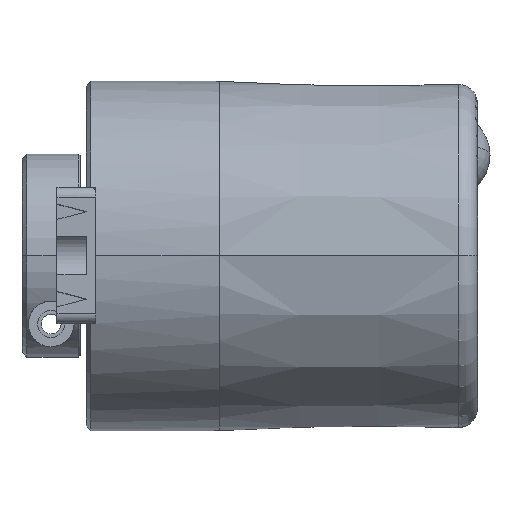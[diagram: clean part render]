
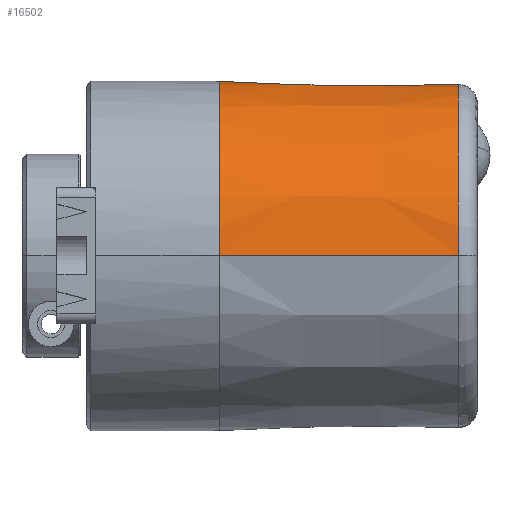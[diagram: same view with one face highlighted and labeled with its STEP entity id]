
A CAD part, top view. The second image highlights one B-rep face of the part: STEP entity #16502.
In plain terms, the highlighted conical face has half-angle 0.75 degrees and reference radius 18 mm.
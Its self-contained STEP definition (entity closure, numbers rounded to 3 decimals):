
#5331 = CARTESIAN_POINT ( 'NONE',  ( 14.892, 1.046, -17.954 ) ) ;
#5333 = CARTESIAN_POINT ( 'NONE',  ( 15.85, 0., -17.972 ) ) ;
#5338 = CARTESIAN_POINT ( 'NONE',  ( 14.892, 1.046, -17.954 ) ) ;
#5339 = CARTESIAN_POINT ( 'NONE',  ( 15.022, 1.035, -17.953 ) ) ;
#5340 = CARTESIAN_POINT ( 'NONE',  ( 15.149, 0.999, -17.953 ) ) ;
#5341 = CARTESIAN_POINT ( 'NONE',  ( 15.381, 0.884, -17.956 ) ) ;
#5342 = CARTESIAN_POINT ( 'NONE',  ( 15.487, 0.804, -17.959 ) ) ;
#5343 = CARTESIAN_POINT ( 'NONE',  ( 15.662, 0.614, -17.964 ) ) ;
#5344 = CARTESIAN_POINT ( 'NONE',  ( 15.732, 0.501, -17.967 ) ) ;
#5345 = CARTESIAN_POINT ( 'NONE',  ( 15.825, 0.26, -17.971 ) ) ;
#5346 = CARTESIAN_POINT ( 'NONE',  ( 15.85, 0.129, -17.972 ) ) ;
#5347 = CARTESIAN_POINT ( 'NONE',  ( 15.85, 0., -17.972 ) ) ;
#5350 = B_SPLINE_CURVE_WITH_KNOTS ( 'NONE', 3,
 ( #5347, #5346, #5345, #5344, #5343, #5342, #5341, #5340, #5339, #5338 ),
 .UNSPECIFIED., .F., .F.,
 ( 4, 2, 2, 2, 4 ),
 ( 0.002, 0.002, 0.002, 0.003, 0.003 ),
 .UNSPECIFIED. ) ;
#8026 = CARTESIAN_POINT ( 'NONE',  ( 38.326, 0., 17.678 ) ) ;
#9736 = CARTESIAN_POINT ( 'NONE',  ( 25.977, 9.368, -15.181 ) ) ;
#9737 = CARTESIAN_POINT ( 'NONE',  ( 26.135, 9.397, -15.161 ) ) ;
#9738 = CARTESIAN_POINT ( 'NONE',  ( 26.3, 9.398, -15.158 ) ) ;
#9747 = B_SPLINE_CURVE_WITH_KNOTS ( 'NONE', 3,
 ( #9738, #9737, #9736, #9793, #9792, #9791, #9790, #9789, #9788, #9787, #9786, #9785 ),
 .UNSPECIFIED., .F., .F.,
 ( 4, 2, 2, 2, 2, 4 ),
 ( 0., 0., 0.001, 0.002, 0.003, 0.004 ),
 .UNSPECIFIED. ) ;
#9754 = CARTESIAN_POINT ( 'NONE',  ( 26.3, 9.398, -15.158 ) ) ;
#9755 = CARTESIAN_POINT ( 'NONE',  ( 38.3, 9.486, -14.917 ) ) ;
#9756 = CARTESIAN_POINT ( 'NONE',  ( 34.3, 9.457, -14.998 ) ) ;
#9757 = CARTESIAN_POINT ( 'NONE',  ( 30.3, 9.427, -15.078 ) ) ;
#9758 = CARTESIAN_POINT ( 'NONE',  ( 26.3, 9.398, -15.158 ) ) ;
#9760 = B_SPLINE_CURVE_WITH_KNOTS ( 'NONE', 3,
 ( #9758, #9757, #9756, #9755 ),
 .UNSPECIFIED., .F., .F.,
 ( 4, 4 ),
 ( 0.002, 0.014 ),
 .UNSPECIFIED. ) ;
#9768 = DIRECTION ( 'NONE',  ( 0., 0., -1. ) ) ;
#9769 = DIRECTION ( 'NONE',  ( -1., 0., 0. ) ) ;
#9770 = CARTESIAN_POINT ( 'NONE',  ( 38.326, 0., 0. ) ) ;
#9771 = AXIS2_PLACEMENT_3D ( 'NONE', #9770, #9769, #9768 ) ;
#9772 = CIRCLE ( 'NONE', #9771, 17.678 ) ;
#9777 = CARTESIAN_POINT ( 'NONE',  ( 38.326, 9.486, -14.917 ) ) ;
#9785 = CARTESIAN_POINT ( 'NONE',  ( 24.3, 6.771, -16.528 ) ) ;
#9786 = CARTESIAN_POINT ( 'NONE',  ( 24.3, 7.074, -16.404 ) ) ;
#9787 = CARTESIAN_POINT ( 'NONE',  ( 24.343, 7.37, -16.272 ) ) ;
#9788 = CARTESIAN_POINT ( 'NONE',  ( 24.507, 7.94, -16. ) ) ;
#9789 = CARTESIAN_POINT ( 'NONE',  ( 24.625, 8.207, -15.862 ) ) ;
#9790 = CARTESIAN_POINT ( 'NONE',  ( 24.948, 8.703, -15.59 ) ) ;
#9791 = CARTESIAN_POINT ( 'NONE',  ( 25.15, 8.928, -15.458 ) ) ;
#9792 = CARTESIAN_POINT ( 'NONE',  ( 25.533, 9.191, -15.296 ) ) ;
#9793 = CARTESIAN_POINT ( 'NONE',  ( 25.672, 9.264, -15.25 ) ) ;
#9819 = DIRECTION ( 'NONE',  ( -1., 0., 0.013 ) ) ;
#9820 = VECTOR ( 'NONE', #9819, 1000. ) ;
#9821 = CARTESIAN_POINT ( 'NONE',  ( 13.7, 0., 18. ) ) ;
#9822 = LINE ( 'NONE', #9821, #9820 ) ;
#16502 = ADVANCED_FACE ( 'NONE', ( #23007 ), #23037, .T. ) ;
#16503 = ORIENTED_EDGE ( 'NONE', *, *, #16505, .F. ) ;
#16505 = EDGE_CURVE ( 'NONE', #16513, #16518, #23038, .T. ) ;
#16512 = EDGE_LOOP ( 'NONE', ( #16503, #16514, #16515, #16522, #16525, #16526, #16531, #16535, #16533, #16794, #16788 ) ) ;
#16513 = VERTEX_POINT ( 'NONE', #23078 ) ;
#16514 = ORIENTED_EDGE ( 'NONE', *, *, #16520, .T. ) ;
#16515 = ORIENTED_EDGE ( 'NONE', *, *, #20295, .T. ) ;
#16516 = VERTEX_POINT ( 'NONE', #23116 ) ;
#16517 = VERTEX_POINT ( 'NONE', #23115 ) ;
#16518 = VERTEX_POINT ( 'NONE', #23114 ) ;
#16519 = EDGE_CURVE ( 'NONE', #16517, #16516, #23113, .T. ) ;
#16520 = EDGE_CURVE ( 'NONE', #16513, #20302, #23108, .T. ) ;
#16521 = EDGE_CURVE ( 'NONE', #20301, #16517, #23102, .T. ) ;
#16522 = ORIENTED_EDGE ( 'NONE', *, *, #16521, .T. ) ;
#16525 = ORIENTED_EDGE ( 'NONE', *, *, #16519, .T. ) ;
#16526 = ORIENTED_EDGE ( 'NONE', *, *, #16530, .T. ) ;
#16528 = EDGE_CURVE ( 'NONE', #16796, #16529, #23169, .T. ) ;
#16529 = VERTEX_POINT ( 'NONE', #23168 ) ;
#16530 = EDGE_CURVE ( 'NONE', #16516, #16532, #23163, .T. ) ;
#16531 = ORIENTED_EDGE ( 'NONE', *, *, #16798, .F. ) ;
#16532 = VERTEX_POINT ( 'NONE', #23159 ) ;
#16533 = ORIENTED_EDGE ( 'NONE', *, *, #16528, .T. ) ;
#16535 = ORIENTED_EDGE ( 'NONE', *, *, #16797, .T. ) ;
#16786 = EDGE_CURVE ( 'NONE', #16790, #16529, #9760, .T. ) ;
#16788 = ORIENTED_EDGE ( 'NONE', *, *, #16791, .T. ) ;
#16790 = VERTEX_POINT ( 'NONE', #9754 ) ;
#16791 = EDGE_CURVE ( 'NONE', #16790, #16518, #9747, .T. ) ;
#16794 = ORIENTED_EDGE ( 'NONE', *, *, #16786, .F. ) ;
#16796 = VERTEX_POINT ( 'NONE', #9777 ) ;
#16797 = EDGE_CURVE ( 'NONE', #23524, #16796, #9772, .T. ) ;
#16798 = EDGE_CURVE ( 'NONE', #23524, #16532, #9822, .T. ) ;
#20295 = EDGE_CURVE ( 'NONE', #20302, #20301, #5350, .T. ) ;
#20301 = VERTEX_POINT ( 'NONE', #5331 ) ;
#20302 = VERTEX_POINT ( 'NONE', #5333 ) ;
#23007 = FACE_OUTER_BOUND ( 'NONE', #16512, .T. ) ;
#23030 = DIRECTION ( 'NONE',  ( 0., 0., 1. ) ) ;
#23031 = DIRECTION ( 'NONE',  ( 1., 0., 0. ) ) ;
#23032 = CARTESIAN_POINT ( 'NONE',  ( 24.3, 0., 0. ) ) ;
#23033 = AXIS2_PLACEMENT_3D ( 'NONE', #23032, #23031, #23030 ) ;
#23034 = DIRECTION ( 'NONE',  ( 0., 0., 1. ) ) ;
#23035 = DIRECTION ( 'NONE',  ( -1., 0., 0. ) ) ;
#23036 = AXIS2_PLACEMENT_3D ( 'NONE', #23039, #23035, #23034 ) ;
#23037 = CONICAL_SURFACE ( 'NONE', #23036, 18., 0.013 ) ;
#23038 = CIRCLE ( 'NONE', #23033, 17.861 ) ;
#23039 = CARTESIAN_POINT ( 'NONE',  ( 13.7, 0., 0. ) ) ;
#23078 = CARTESIAN_POINT ( 'NONE',  ( 24.3, 0., -17.861 ) ) ;
#23099 = CARTESIAN_POINT ( 'NONE',  ( 14.677, 1.065, -17.956 ) ) ;
#23100 = CARTESIAN_POINT ( 'NONE',  ( 14.892, 1.046, -17.954 ) ) ;
#23102 =( BOUNDED_CURVE ( )  B_SPLINE_CURVE ( 3, ( #23100, #23099, #23137, #23136 ),
 .UNSPECIFIED., .F., .T. ) 
 B_SPLINE_CURVE_WITH_KNOTS ( ( 4, 4 ),
 ( 4.62, 4.623 ),
 .UNSPECIFIED. ) 
 CURVE ( )  GEOMETRIC_REPRESENTATION_ITEM ( )  RATIONAL_B_SPLINE_CURVE ( ( 1., 1., 1., 1. ) ) 
 REPRESENTATION_ITEM ( '' )  );
#23105 = DIRECTION ( 'NONE',  ( -1., 0., -0.013 ) ) ;
#23106 = VECTOR ( 'NONE', #23105, 1000. ) ;
#23107 = CARTESIAN_POINT ( 'NONE',  ( 13.7, 0., -18. ) ) ;
#23108 = LINE ( 'NONE', #23107, #23106 ) ;
#23109 = CARTESIAN_POINT ( 'NONE',  ( 13.7, 1.65, -17.924 ) ) ;
#23110 = CARTESIAN_POINT ( 'NONE',  ( 13.882, 1.468, -17.939 ) ) ;
#23111 = CARTESIAN_POINT ( 'NONE',  ( 14.065, 1.285, -17.95 ) ) ;
#23112 = CARTESIAN_POINT ( 'NONE',  ( 14.248, 1.102, -17.959 ) ) ;
#23113 =( BOUNDED_CURVE ( )  B_SPLINE_CURVE ( 3, ( #23112, #23111, #23110, #23109 ),
 .UNSPECIFIED., .F., .F. ) 
 B_SPLINE_CURVE_WITH_KNOTS ( ( 4, 4 ),
 ( 4.761, 4.791 ),
 .UNSPECIFIED. ) 
 CURVE ( )  GEOMETRIC_REPRESENTATION_ITEM ( )  RATIONAL_B_SPLINE_CURVE ( ( 1., 1., 1., 1. ) ) 
 REPRESENTATION_ITEM ( '' )  );
#23114 = CARTESIAN_POINT ( 'NONE',  ( 24.3, 6.771, -16.528 ) ) ;
#23115 = CARTESIAN_POINT ( 'NONE',  ( 14.248, 1.102, -17.959 ) ) ;
#23116 = CARTESIAN_POINT ( 'NONE',  ( 13.7, 1.65, -17.924 ) ) ;
#23117 = CARTESIAN_POINT ( 'NONE',  ( 13.7, 0., 0. ) ) ;
#23136 = CARTESIAN_POINT ( 'NONE',  ( 14.248, 1.102, -17.959 ) ) ;
#23137 = CARTESIAN_POINT ( 'NONE',  ( 14.462, 1.084, -17.957 ) ) ;
#23159 = CARTESIAN_POINT ( 'NONE',  ( 13.7, 0., 18. ) ) ;
#23160 = DIRECTION ( 'NONE',  ( 0., 0., -1. ) ) ;
#23161 = DIRECTION ( 'NONE',  ( 1., 0., 0. ) ) ;
#23162 = AXIS2_PLACEMENT_3D ( 'NONE', #23117, #23161, #23160 ) ;
#23163 = CIRCLE ( 'NONE', #23162, 18. ) ;
#23164 = CARTESIAN_POINT ( 'NONE',  ( 38.3, 9.486, -14.917 ) ) ;
#23165 = CARTESIAN_POINT ( 'NONE',  ( 38.309, 9.486, -14.917 ) ) ;
#23166 = CARTESIAN_POINT ( 'NONE',  ( 38.317, 9.486, -14.917 ) ) ;
#23167 = CARTESIAN_POINT ( 'NONE',  ( 38.326, 9.486, -14.917 ) ) ;
#23168 = CARTESIAN_POINT ( 'NONE',  ( 38.3, 9.486, -14.917 ) ) ;
#23169 = B_SPLINE_CURVE_WITH_KNOTS ( 'NONE', 3,
 ( #23167, #23166, #23165, #23164 ),
 .UNSPECIFIED., .F., .F.,
 ( 4, 4 ),
 ( 0.004, 0.004 ),
 .UNSPECIFIED. ) ;
#23524 = VERTEX_POINT ( 'NONE', #8026 ) ;
